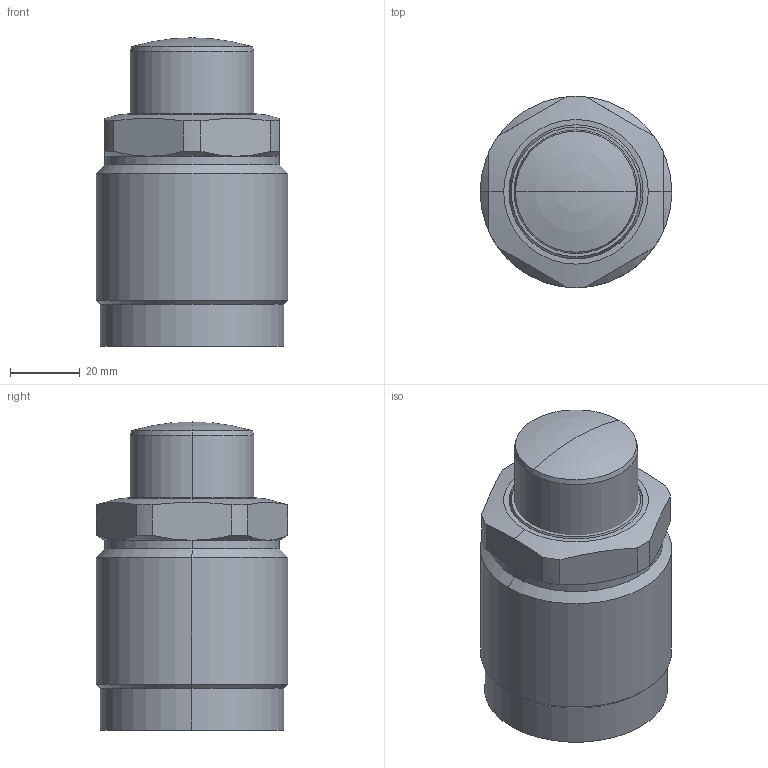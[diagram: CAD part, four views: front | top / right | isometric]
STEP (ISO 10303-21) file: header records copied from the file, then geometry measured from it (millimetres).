
FILE_DESCRIPTION (( 'STEP AP203' ), '1' );
FILE_NAME ('650551-RM.step', '2016-11-02T03:15:02', ( 'wxp' ), ( '' ), 'SwSTEP 2.0', 'SolidWorks 2011', '' );
FILE_SCHEMA (( 'CONFIG_CONTROL_DESIGN' ));
Length unit declared in the file: millimetre
Products named in the file (3): 650551-RM; 葩璃 650551-RM.sldasm-Part-2^650551-RM; 葩璃 650551-RM.sldasm-Part-1^650551-RM
Assembly tree (2 placements, depth 2):
  650551-RM
    葩璃 650551-RM.sldasm-Part-2^650551-RM
    葩璃 650551-RM.sldasm-Part-1^650551-RM
Bounding box: 55 x 55 x 88.5 mm (x, y, z)
Volume: 170825.7 mm3; surface area: 21469.4 mm2
Topology: 2 solids, 2 shells, 66 faces, 144 edges, 84 vertices
Faces by surface type: cylinder 26, cone 18, plane 14, torus 8
Entity records: 2177 total; most frequent: CARTESIAN_POINT 473, DIRECTION 314, ORIENTED_EDGE 280, AXIS2_PLACEMENT_3D 141, EDGE_CURVE 140, VERTEX_POINT 84, EDGE_LOOP 72, CIRCLE 70
